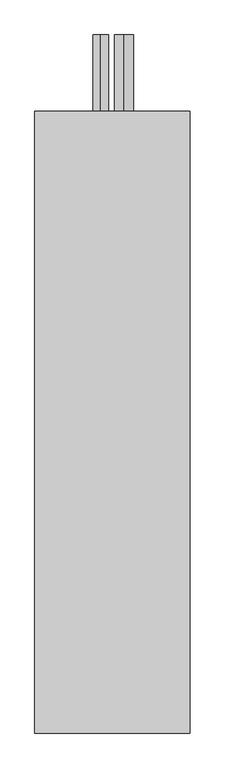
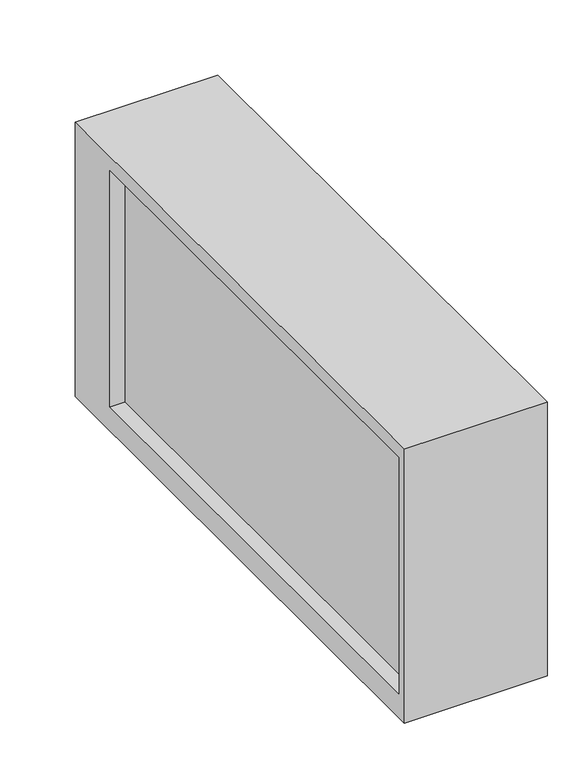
"""IFC4 building model written with IfcOpenShell, lengths in millimetres: proxy geometry, СВ_ВоздухоохладительФреоновый_КанальныйПрямоугольный_200-1000_SPC-F : SPC-F-1000x500-L."""

from ifc_helpers import new_model, si_unit, point, frame, frame_2d, origin, place, context, project, spatial, polyline, circle_curve, trimmed, segment, composite_curve, outline, extrude, source, transform, mapped, element, save


def mechanical_equipment_9b0fa026(model_context):
    return source(origin(), model_context, "Body", "SweptSolid", [
        extrude(outline(polyline([(-520.0, -300.0), (-520.0, 280.0), (620.0, 280.0), (620.0, -300.0), (-520.0, -300.0)]), holes=[polyline([(-500.0, 250.0), (-500.0, -250.0), (500.0, -250.0), (500.0, 250.0), (-500.0, 250.0)])]), frame((-142.5, 0.0, 0.0), z_axis=(1.0, 0.0, 0.0), x_axis=(0.0, 1.0, 0.0)), (0.0, 0.0, 1.0), 285.0),
        extrude(outline(composite_curve([segment(trimmed(circle_curve(frame_2d((-190.0, 21.5)), 17.45), [point((-207.45, 21.5))], [point((-172.55, 21.5))], False, "CARTESIAN"), True, "CONTINUOUS"), segment(trimmed(circle_curve(frame_2d((-190.0, 21.5)), 17.45), [point((-172.55, 21.5))], [point((-207.45, 21.5))], False, "CARTESIAN"), True, "CONTINUOUS")], self_intersect=False)), frame((0.0, 620.0, 0.0), z_axis=(0.0, 1.0, 0.0), x_axis=(0.0, 0.0, 1.0)), (0.0, 0.0, 1.0), 140.0),
        extrude(outline(composite_curve([segment(trimmed(circle_curve(frame_2d((140.0, -21.5)), 14.3), [point((125.7, -21.5))], [point((154.3, -21.5))], False, "CARTESIAN"), True, "CONTINUOUS"), segment(trimmed(circle_curve(frame_2d((140.0, -21.5)), 14.3), [point((154.3, -21.5))], [point((125.7, -21.5))], False, "CARTESIAN"), True, "CONTINUOUS")], self_intersect=False)), frame((0.0, 620.0, 0.0), z_axis=(0.0, 1.0, 0.0), x_axis=(0.0, 0.0, 1.0)), (0.0, 0.0, 1.0), 140.0),
        extrude(outline(composite_curve([segment(trimmed(circle_curve(frame_2d((0.0, 580.0)), 11.0), [point((-11.0, 580.0))], [point((11.0, 580.0))], False, "CARTESIAN"), True, "CONTINUOUS"), segment(trimmed(circle_curve(frame_2d((0.0, 580.0)), 11.0), [point((11.0, 580.0))], [point((-11.0, 580.0))], False, "CARTESIAN"), True, "CONTINUOUS")], self_intersect=False)), frame((0.0, 0.0, -320.0), z_axis=(0.0, 0.0, 1.0), x_axis=(1.0, 0.0, 0.0)), (0.0, 0.0, 1.0), 20.0),
        extrude(outline(polyline([(112.5, 500.0), (112.5, -500.0), (-112.5, -500.0), (-112.5, 500.0), (112.5, 500.0)])), frame((0.0, 0.0, -250.0), z_axis=(0.0, 0.0, 1.0), x_axis=(1.0, 0.0, 0.0)), (0.0, 0.0, 1.0), 500.0),
    ])


if __name__ == "__main__":
    model = new_model("IFC4")
    model_context = context("Model", 3, world=origin())
    ifc_project = project(units=[si_unit("LENGTHUNIT", "METRE", prefix="MILLI")], contexts=[model_context])
    site = spatial("IfcSite", under=ifc_project)
    building = spatial("IfcBuilding", under=site)
    placement = place(None, origin())
    mechanical_equipment_shape = mechanical_equipment_9b0fa026(model_context)
    element("IfcBuildingElementProxy", 1, Name="СВ_ВоздухоохладительФреоновый_КанальныйПрямоугольный_200-1000_SPC-F : SPC-F-1000x500-L", ObjectType="СВ_ВоздухоохладительФреоновый_КанальныйПрямоугольный_200-1000_SPC-F : SPC-F-1000x500-L", at=placement, inside=building, context=model_context, shape_type="MappedRepresentation", body=[
        mapped(mechanical_equipment_shape, transform((0.0, 0.0, 0.0), x_axis=(1.0, 0.0, 0.0), y_axis=(0.0, 1.0, 0.0), z_axis=(0.0, 0.0, 1.0))),
    ])
    save(model, "model.ifc")
